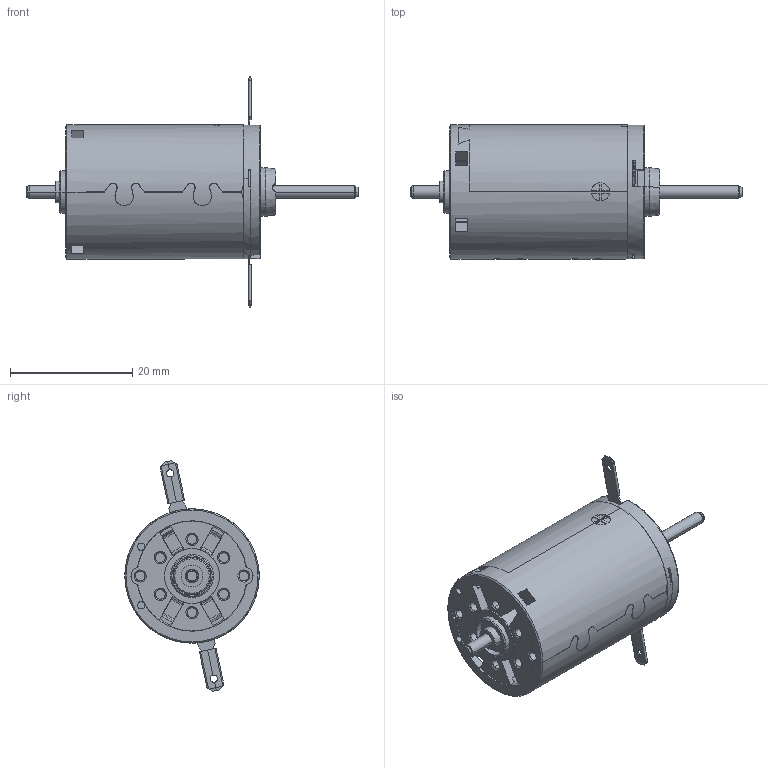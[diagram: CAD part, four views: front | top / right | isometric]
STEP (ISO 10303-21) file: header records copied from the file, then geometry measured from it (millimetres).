
FILE_DESCRIPTION((''),'2;1');
FILE_NAME('110156_AMAX22_GB_6W_SL_2WE','2016-10-14T',('mmagvisi'),(''),'CREO PARAMETRIC BY PTC INC, 2016050','CREO PARAMETRIC BY PTC INC, 2016050','');
FILE_SCHEMA(('CONFIG_CONTROL_DESIGN'));
Length unit declared in the file: millimetre
Products named in the file (1): 110156_AMAX22_GB_6W_SL_2WE
Bounding box: 54.4 x 22 x 37.81 mm (x, y, z)
Volume: 11944.1 mm3; surface area: 4058 mm2
Topology: 1 solids, 3 shells, 486 faces, 1254 edges, 790 vertices
Faces by surface type: plane 313, cylinder 105, cone 54, torus 14
Entity records: 22552 total; most frequent: CARTESIAN_POINT 4598, ORIENTED_EDGE 2508, DIRECTION 2345, PRESENTATION_STYLE_ASSIGNMENT 1545, STYLED_ITEM 1255, CURVE_STYLE 1254, EDGE_CURVE 1254, VECTOR 799
